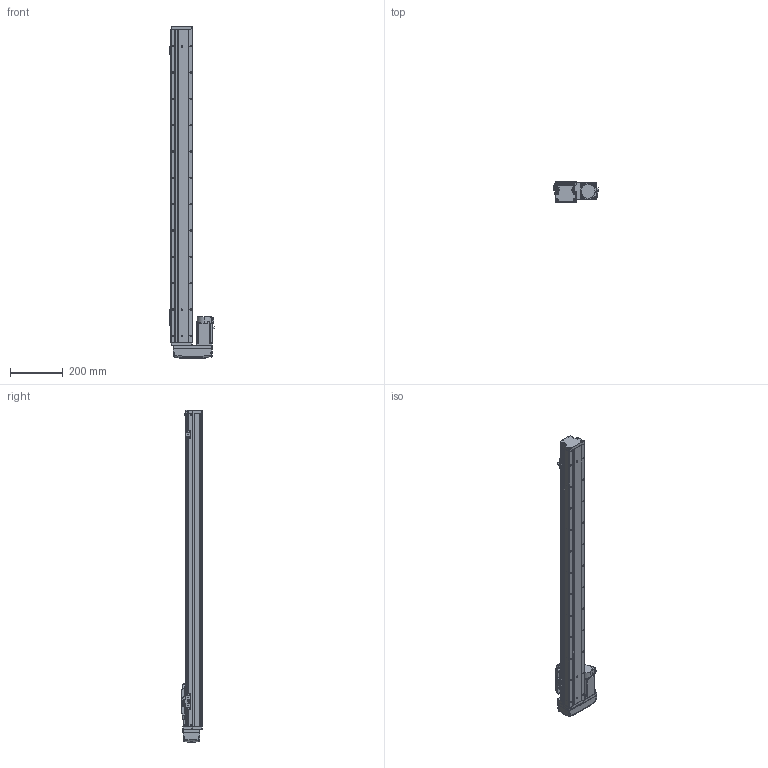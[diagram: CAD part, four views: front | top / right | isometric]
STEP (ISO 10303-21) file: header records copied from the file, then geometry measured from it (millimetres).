
FILE_DESCRIPTION (( 'STEP AP203' ), '1' );
FILE_NAME ('GTH8-1000-BR-M20-C4.step', '2022-09-23T01:08:46', ( '微软用户' ), ( '微软中国' ), 'SwSTEP 2.0', 'SolidWorks 2020', '' );
FILE_SCHEMA (( 'CONFIG_CONTROL_DESIGN' ));
Length unit declared in the file: millimetre
Products named in the file (18): GTH80-022; GBT 70.1-M4×16; CTHA86-015-1_CTHA86-015-2; GTH80-001_1000; GTH80-028; CTHA86-033_M40B; GTH80-003; GTH50-024; GTH8-1000-BR-M20-C4; GTH80-004; GTH50-023; GTH80-006; GBT96.1-2002 3×0.8; GTH80-013; BTH-M3X5X6; GBT 70.3-M3℅6; GBT 70.1-M3℅6; hg-kn43j_-s100_
Assembly tree (57 placements, depth 2):
  GTH8-1000-BR-M20-C4
    GTH80-001_1000
    GTH80-003
    GTH80-004
    GTH80-006
    GTH80-013
    GBT 70.3-M3℅6  x4
    GTH80-022
    GBT 70.1-M3℅6  x14
    GBT 70.1-M4×16  x8
    GTH80-028  x2
    GTH50-024  x3
    GTH50-023  x3
    GBT96.1-2002 3×0.8  x6
    BTH-M3X5X6  x8
    hg-kn43j_-s100_
    CTHA86-015-1_CTHA86-015-2
    CTHA86-033_M40B
Bounding box: 169.7 x 78 x 1261 mm (x, y, z)
Volume: 6140312.6 mm3; surface area: 597168.7 mm2
Topology: 59 solids, 59 shells, 2256 faces, 5223 edges, 3203 vertices
Faces by surface type: plane 1187, cylinder 627, cone 260, torus 166, bspline 8, sphere 8
Entity records: 41514 total; most frequent: CARTESIAN_POINT 7289, DIRECTION 6761, ORIENTED_EDGE 6264, EDGE_CURVE 3132, AXIS2_PLACEMENT_3D 2373, LINE 2015, VECTOR 2015, VERTEX_POINT 1978
